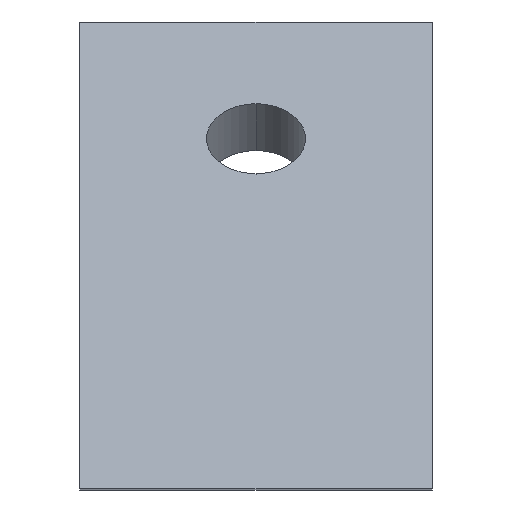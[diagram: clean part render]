
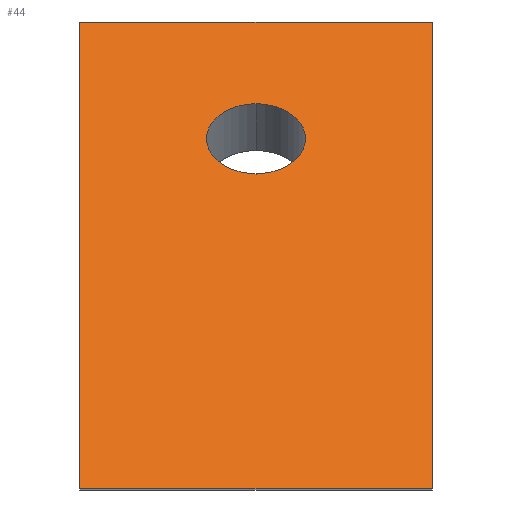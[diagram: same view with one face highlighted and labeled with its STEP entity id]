
A CAD part, top view. The second image highlights one B-rep face of the part: STEP entity #44.
In plain terms, the highlighted planar face has unit normal (0, 0.707, 0.707).
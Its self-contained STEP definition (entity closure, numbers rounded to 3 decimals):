
#40 = VECTOR ( 'NONE', #196, 1000. ) ;
#44 = ADVANCED_FACE ( 'NONE', ( #447, #173 ), #178, .F. ) ;
#47 = ORIENTED_EDGE ( 'NONE', *, *, #618, .F. ) ;
#71 = CIRCLE ( 'NONE', #716, 4.5 ) ;
#72 = CARTESIAN_POINT ( 'NONE',  ( 0., -14.136, 38.508 ) ) ;
#76 = CARTESIAN_POINT ( 'NONE',  ( 16., 14.502, 9.871 ) ) ;
#128 = VECTOR ( 'NONE', #351, 1000. ) ;
#159 = CARTESIAN_POINT ( 'NONE',  ( 16., 17.684, 6.689 ) ) ;
#173 = FACE_OUTER_BOUND ( 'NONE', #714, .T. ) ;
#178 = PLANE ( 'NONE',  #570 ) ;
#184 = CARTESIAN_POINT ( 'NONE',  ( 0., 28.29, -3.918 ) ) ;
#196 = DIRECTION ( 'NONE',  ( -1., 0., 0. ) ) ;
#213 = DIRECTION ( 'NONE',  ( 0., -0.707, 0.707 ) ) ;
#216 = CARTESIAN_POINT ( 'NONE',  ( 0., -14.136, 38.508 ) ) ;
#226 = ORIENTED_EDGE ( 'NONE', *, *, #399, .F. ) ;
#242 = CARTESIAN_POINT ( 'NONE',  ( 32., -14.136, 38.508 ) ) ;
#251 = CARTESIAN_POINT ( 'NONE',  ( 16., 17.684, 6.689 ) ) ;
#252 = CARTESIAN_POINT ( 'NONE',  ( 32., 28.29, -3.918 ) ) ;
#257 = CIRCLE ( 'NONE', #442, 4.5 ) ;
#267 = DIRECTION ( 'NONE',  ( 0., -0.707, 0.707 ) ) ;
#282 = EDGE_CURVE ( 'NONE', #566, #708, #555, .T. ) ;
#301 = CARTESIAN_POINT ( 'NONE',  ( 32., -14.136, 38.508 ) ) ;
#304 = DIRECTION ( 'NONE',  ( 0., -0.707, 0.707 ) ) ;
#318 = DIRECTION ( 'NONE',  ( 0., 0.707, -0.707 ) ) ;
#329 = ORIENTED_EDGE ( 'NONE', *, *, #730, .T. ) ;
#346 = CARTESIAN_POINT ( 'NONE',  ( 32., -14.136, 38.508 ) ) ;
#351 = DIRECTION ( 'NONE',  ( 0., -0.707, 0.707 ) ) ;
#362 = VECTOR ( 'NONE', #267, 1000. ) ;
#367 = CARTESIAN_POINT ( 'NONE',  ( 32., -14.136, 38.508 ) ) ;
#399 = EDGE_CURVE ( 'NONE', #666, #721, #71, .T. ) ;
#400 = VERTEX_POINT ( 'NONE', #72 ) ;
#401 = ORIENTED_EDGE ( 'NONE', *, *, #598, .F. ) ;
#417 = DIRECTION ( 'NONE',  ( -1., 0., 0. ) ) ;
#442 = AXIS2_PLACEMENT_3D ( 'NONE', #159, #534, #213 ) ;
#447 = FACE_BOUND ( 'NONE', #469, .T. ) ;
#465 = CARTESIAN_POINT ( 'NONE',  ( 32., 28.29, -3.918 ) ) ;
#469 = EDGE_LOOP ( 'NONE', ( #47, #226 ) ) ;
#491 = VERTEX_POINT ( 'NONE', #184 ) ;
#493 = DIRECTION ( 'NONE',  ( 0., -0.707, -0.707 ) ) ;
#496 = LINE ( 'NONE', #216, #362 ) ;
#534 = DIRECTION ( 'NONE',  ( 0., 0.707, 0.707 ) ) ;
#543 = ORIENTED_EDGE ( 'NONE', *, *, #282, .F. ) ;
#545 = VECTOR ( 'NONE', #417, 1000. ) ;
#555 = LINE ( 'NONE', #242, #128 ) ;
#566 = VERTEX_POINT ( 'NONE', #465 ) ;
#570 = AXIS2_PLACEMENT_3D ( 'NONE', #346, #493, #318 ) ;
#593 = ORIENTED_EDGE ( 'NONE', *, *, #662, .T. ) ;
#598 = EDGE_CURVE ( 'NONE', #708, #400, #607, .T. ) ;
#607 = LINE ( 'NONE', #367, #545 ) ;
#609 = LINE ( 'NONE', #252, #40 ) ;
#618 = EDGE_CURVE ( 'NONE', #721, #666, #257, .T. ) ;
#641 = DIRECTION ( 'NONE',  ( 0., 0.707, 0.707 ) ) ;
#662 = EDGE_CURVE ( 'NONE', #491, #400, #496, .T. ) ;
#666 = VERTEX_POINT ( 'NONE', #689 ) ;
#689 = CARTESIAN_POINT ( 'NONE',  ( 16., 20.866, 3.507 ) ) ;
#708 = VERTEX_POINT ( 'NONE', #301 ) ;
#714 = EDGE_LOOP ( 'NONE', ( #593, #401, #543, #329 ) ) ;
#716 = AXIS2_PLACEMENT_3D ( 'NONE', #251, #641, #304 ) ;
#721 = VERTEX_POINT ( 'NONE', #76 ) ;
#730 = EDGE_CURVE ( 'NONE', #566, #491, #609, .T. ) ;
